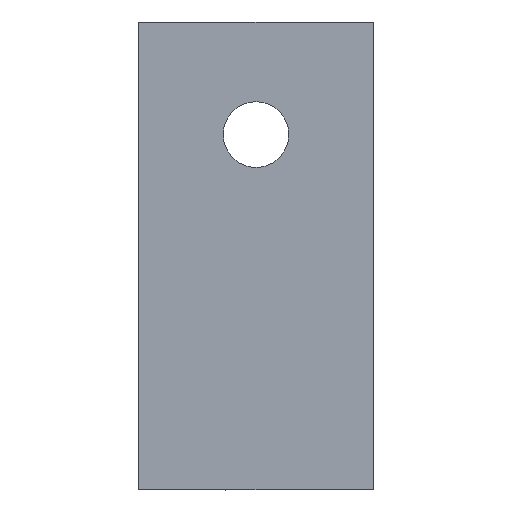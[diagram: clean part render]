
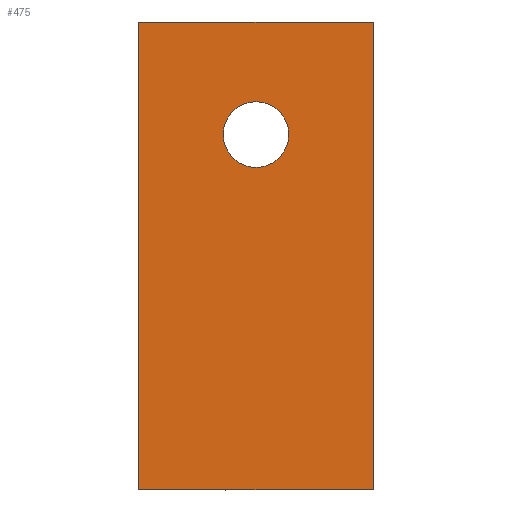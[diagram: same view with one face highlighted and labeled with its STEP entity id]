
A CAD part, front view. The second image highlights one B-rep face of the part: STEP entity #475.
In plain terms, the highlighted planar face has unit normal (0, -1, 0).
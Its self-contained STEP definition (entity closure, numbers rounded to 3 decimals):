
#27=FACE_BOUND('',#93,.T.);
#40=CIRCLE('',#522,1.75);
#65=FACE_OUTER_BOUND('',#92,.T.);
#92=EDGE_LOOP('',(#405,#406,#407,#408));
#93=EDGE_LOOP('',(#409));
#138=LINE('',#823,#186);
#141=LINE('',#830,#189);
#143=LINE('',#834,#191);
#144=LINE('',#835,#192);
#186=VECTOR('',#641,10.);
#189=VECTOR('',#648,10.);
#191=VECTOR('',#652,10.);
#192=VECTOR('',#653,10.);
#229=VERTEX_POINT('',#802);
#233=VERTEX_POINT('',#814);
#236=VERTEX_POINT('',#821);
#238=VERTEX_POINT('',#829);
#239=VERTEX_POINT('',#833);
#285=EDGE_CURVE('',#229,#229,#40,.T.);
#296=EDGE_CURVE('',#233,#236,#138,.T.);
#299=EDGE_CURVE('',#236,#238,#141,.T.);
#301=EDGE_CURVE('',#233,#239,#143,.T.);
#302=EDGE_CURVE('',#239,#238,#144,.T.);
#405=ORIENTED_EDGE('',*,*,#301,.F.);
#406=ORIENTED_EDGE('',*,*,#296,.T.);
#407=ORIENTED_EDGE('',*,*,#299,.T.);
#408=ORIENTED_EDGE('',*,*,#302,.F.);
#409=ORIENTED_EDGE('',*,*,#285,.T.);
#450=PLANE('',#530);
#475=ADVANCED_FACE('',(#65,#27),#450,.T.);
#522=AXIS2_PLACEMENT_3D('',#803,#622,#623);
#530=AXIS2_PLACEMENT_3D('',#832,#650,#651);
#622=DIRECTION('center_axis',(0.,1.,0.));
#623=DIRECTION('ref_axis',(0.,0.,-1.));
#641=DIRECTION('',(0.,0.,1.));
#648=DIRECTION('',(-1.,0.,0.));
#650=DIRECTION('center_axis',(0.,-1.,0.));
#651=DIRECTION('ref_axis',(0.,0.,-1.));
#652=DIRECTION('',(-1.,0.,0.));
#653=DIRECTION('',(0.,0.,1.));
#802=CARTESIAN_POINT('',(-30.75,-10.,30.693));
#803=CARTESIAN_POINT('Origin',(-30.75,-10.,28.943));
#814=CARTESIAN_POINT('',(-24.5,-10.,10.));
#821=CARTESIAN_POINT('',(-24.5,-10.,34.943));
#823=CARTESIAN_POINT('',(-24.5,-10.,22.925));
#829=CARTESIAN_POINT('',(-37.,-10.,34.943));
#830=CARTESIAN_POINT('',(-30.75,-10.,34.943));
#832=CARTESIAN_POINT('Origin',(-30.75,-10.,28.525));
#833=CARTESIAN_POINT('',(-37.,-10.,10.));
#834=CARTESIAN_POINT('',(-30.75,-10.,10.));
#835=CARTESIAN_POINT('',(-37.,-10.,22.925));
